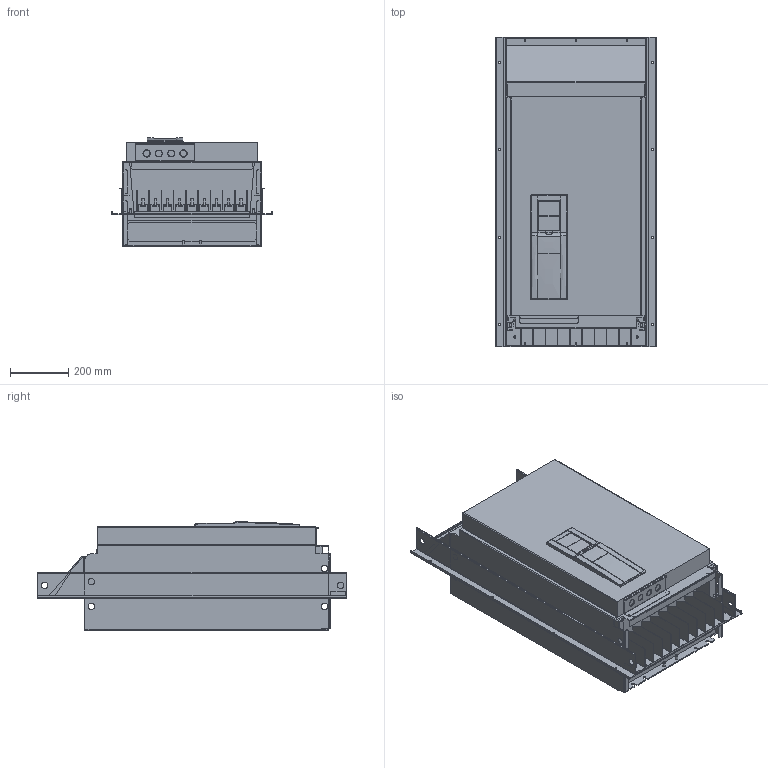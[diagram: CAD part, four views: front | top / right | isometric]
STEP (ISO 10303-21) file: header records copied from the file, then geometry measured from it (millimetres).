
FILE_DESCRIPTION(/* description */ (''),/* implementation_level */ '2;1');
FILE_NAME(/* name */ '70CMC00431_B_MR09 Dimension Drawing HMX Flush Mount_1.prt.stp',/* time_stamp */ '2012-12-19T10:29:08+02:00',/* author */ (''),/* organization */ (''),/* preprocessor_version */ 'ST-DEVELOPER v11',/* originating_system */ 'SIEMENS UGS NX 6.0',/* authorisation */ '');
FILE_SCHEMA (('CONFIG_CONTROL_DESIGN'));
Products named in the file (3): MR9_PanelCutout_jt342; 70CMC00431_B_MR09 Dimension Drawing HMX Flush Mount UL343; 70CMC00431_B_MR09 Dimension Drawing HMX Flush Mount_stp
Assembly tree (2 placements, depth 3):
  70CMC00431_B_MR09 Dimension Drawing HMX Flush Mount_stp
    70CMC00431_B_MR09 Dimension Drawing HMX Flush Mount UL343
      MR9_PanelCutout_jt342
Bounding box: 550 x 1060.1 x 371.62 mm (x, y, z)
Surface area: 6730818.3 mm2
Topology: 4 solids, 4 shells, 3136 faces, 8156 edges, 5322 vertices
Faces by surface type: plane 2328, cylinder 548, bspline 224, cone 28, torus 4, revolution 4
Full cylindrical faces by diameter (mm): 3.3 x4, 3.6 x4, 5 x8, 8 x26, 9 x4, 10 x4, 22 x24, 22.5 x4, 23.014 x1, 23.515 x1, 25.3 x2
Entity records: 99980 total; most frequent: CARTESIAN_POINT 23303, ORIENTED_EDGE 16288, DIRECTION 14674, EDGE_CURVE 8144, LINE 6412, VECTOR 6412, VERTEX_POINT 5322, AXIS2_PLACEMENT_3D 4129
